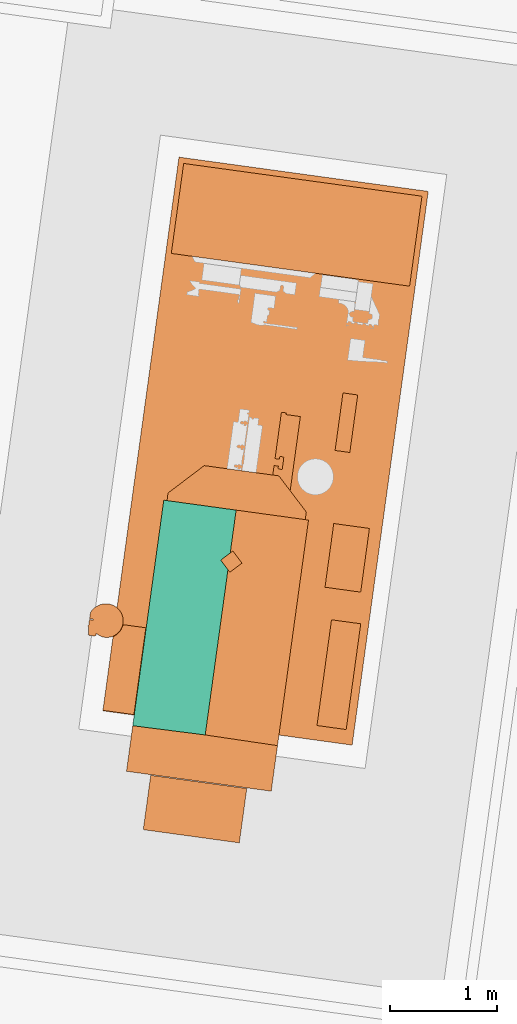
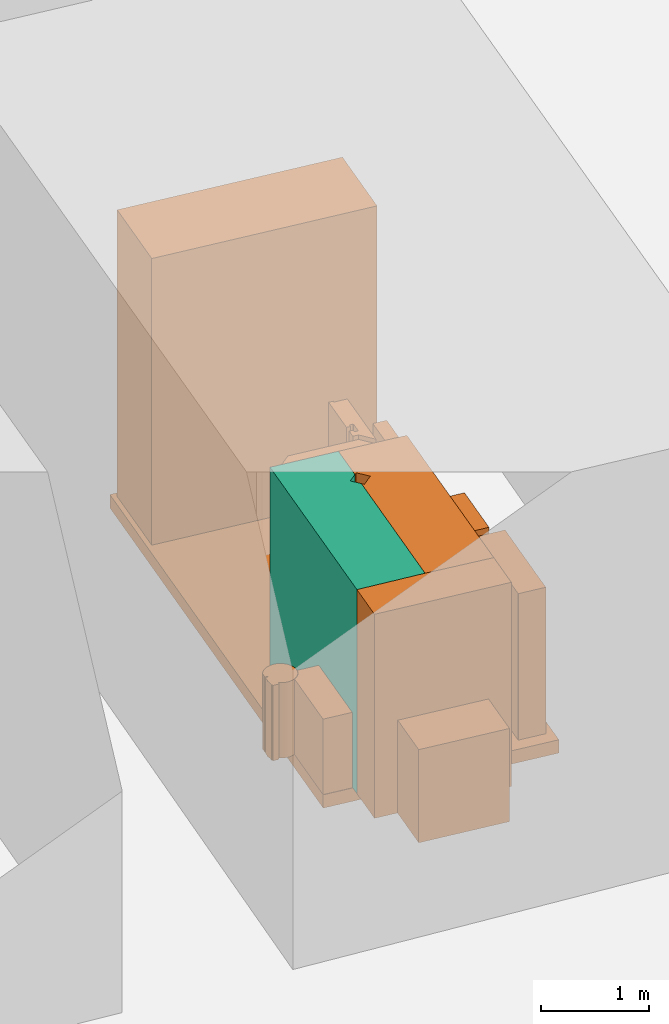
# Not in any storey, part 54 of 75: 12 proxies, 1 compressor.
"""IFC4 model written with IfcOpenShell, lengths in metres."""

from ifc_helpers import new_model, si_unit, direction, origin_with_axes, place, context, subcontext, project, spatial, triangles, element, aggregate, save


model = new_model("IFC4")

# Units and contexts
model_context = context("Model", 3, precision=1e-05, world=origin_with_axes(), true_north=direction((0.0, 1.0)))
body_context = subcontext(model_context, "Body", "Model", "MODEL_VIEW")
ifc_project = project(units=[si_unit("AREAUNIT", "SQUARE_METRE"), si_unit("VOLUMEUNIT", "CUBIC_METRE"), si_unit("LENGTHUNIT", "METRE")], contexts=[model_context])

# Site
site_placement = place(None, origin_with_axes())
site = spatial("IfcSite", under=ifc_project, at=site_placement, Name="Parcela industrial Jinhong")

# Compressor, proxies
compressor_placement = place(site_placement, origin_with_axes())
compressor = element("IfcCompressor", 1, at=compressor_placement, inside=site, Name="Compresor de aire AC1001C · Carcasa principal · región CAD 1", ObjectType="Envolvente de equipo", PredefinedType="USERDEFINED", context=body_context, shape_type="Tessellation", body=[
    triangles([(62.203534, 71.486232, 3.95), (61.527692, 71.57915, 3.95), (62.148549, 71.086294, 3.95), (61.527692, 71.57915, 1.65), (62.203534, 71.486232, 1.65), (62.148549, 71.086294, 1.65), (61.238041, 69.472368, 3.95), (61.914823, 69.386286, 3.95), (61.914823, 69.386286, 1.65), (61.238041, 69.472368, 1.65), (62.059412, 71.018705, 3.95), (62.127001, 70.929568, 3.95), (62.127001, 70.929568, 1.65), (62.059412, 71.018705, 1.65)], [[1, 2, 3], [4, 5, 6], [2, 7, 8], [9, 10, 4], [8, 12, 11], [13, 9, 14], [3, 2, 11], [4, 6, 14], [2, 8, 11], [14, 9, 4], [4, 10, 7], [4, 7, 2], [10, 9, 8], [10, 8, 7], [9, 13, 12], [9, 12, 8], [11, 13, 14], [11, 12, 13], [14, 6, 3], [14, 3, 11], [6, 5, 1], [1, 3, 6], [5, 4, 2], [5, 2, 1]], closed=True),
])
proxy_1_placement = place(compressor_placement, origin_with_axes())
proxy_1 = element("IfcBuildingElementProxy", 2, at=proxy_1_placement, Name="Compresor de aire AC1001C · Envolvente del bastidor de referencia", context=body_context, shape_type="Tessellation", body=[
    triangles([(61.669885, 74.78294, 1.65), (60.9589, 69.611587, 1.65), (63.287, 69.291507, 1.65), (61.669885, 74.78294, 1.5), (63.287, 69.291507, 1.5), (60.9589, 69.611587, 1.5), (63.997985, 74.462861, 1.65), (63.997985, 74.462861, 1.5)], [[1, 2, 3], [4, 5, 6], [3, 7, 1], [5, 4, 8], [7, 5, 8], [5, 7, 3], [8, 4, 1], [7, 8, 1], [2, 4, 6], [4, 2, 1], [6, 5, 3], [6, 3, 2]], closed=True),
])
proxy_2_placement = place(compressor_placement, origin_with_axes())
proxy_2 = element("IfcBuildingElementProxy", 3, at=proxy_2_placement, Name="Compresor de aire AC1001C · Carcasa principal · región CAD 2", context=body_context, shape_type="Tessellation", body=[
    triangles([(62.879476, 71.3933, 3.95), (62.203534, 71.486232, 3.95), (62.589825, 69.286518, 3.95), (62.203534, 71.486232, 1.65), (62.879476, 71.3933, 1.65), (62.589825, 69.286518, 1.65), (62.148549, 71.086294, 3.95), (62.172552, 71.104494, 3.95), (62.172552, 71.104494, 1.65), (62.148549, 71.086294, 1.65), (62.127001, 70.929568, 3.95), (61.914823, 69.386286, 3.95), (62.145202, 70.905566, 3.95), (62.127001, 70.929568, 1.65), (62.145202, 70.905566, 1.65), (61.914823, 69.386286, 1.65), (62.258341, 70.991355, 3.95), (62.258341, 70.991355, 1.65)], [[1, 2, 3], [4, 5, 6], [2, 7, 8], [9, 10, 4], [11, 12, 13], [14, 15, 16], [2, 8, 17], [18, 9, 4], [12, 17, 13], [16, 15, 18], [17, 3, 2], [18, 4, 6], [17, 12, 3], [6, 16, 18], [4, 10, 7], [4, 7, 2], [10, 9, 8], [10, 8, 7], [9, 18, 17], [9, 17, 8], [18, 15, 13], [18, 13, 17], [15, 14, 11], [11, 13, 15], [12, 14, 16], [14, 12, 11], [16, 6, 3], [16, 3, 12], [6, 5, 1], [1, 3, 6], [5, 4, 2], [5, 2, 1]], closed=True),
])
proxy_3_placement = place(compressor_placement, origin_with_axes())
proxy_3 = element("IfcBuildingElementProxy", 4, at=proxy_3_placement, Name="Compresor de aire AC1001C · Cuerpo de equipo · región CAD 3", context=body_context, shape_type="Tessellation", body=[
    triangles([(63.821909, 73.577895, 4.88), (61.599836, 73.884306, 4.88), (61.599713, 73.883414, 4.88), (61.599836, 73.884306, 1.65), (63.821909, 73.577895, 1.65), (61.599713, 73.883414, 1.65), (63.938989, 74.416261, 4.88), (63.821372, 73.580594, 4.88), (63.823938, 73.579433, 4.88), (63.938989, 74.416261, 1.65), (63.823938, 73.579433, 1.65), (63.821372, 73.580594, 1.65), (63.937437, 74.418191, 4.88), (61.715241, 74.72371, 4.88), (63.936437, 74.417521, 4.88), (61.715241, 74.72371, 1.65), (63.937437, 74.418191, 1.65), (63.936437, 74.417521, 1.65), (61.713448, 74.723149, 4.88), (61.598274, 73.885429, 4.88), (61.714887, 74.721134, 4.88), (61.713448, 74.723149, 1.65), (61.714887, 74.721134, 1.65), (61.598274, 73.885429, 1.65), (61.60185, 73.885745, 4.88), (61.60185, 73.885745, 1.65), (63.936192, 74.415738, 4.88), (63.936192, 74.415738, 1.65), (61.71667, 74.720889, 4.88), (61.71667, 74.720889, 1.65)], [[1, 2, 3], [4, 5, 6], [7, 8, 9], [10, 11, 12], [13, 14, 15], [16, 17, 18], [19, 20, 21], [22, 23, 24], [1, 25, 2], [4, 26, 5], [8, 7, 27], [12, 28, 10], [15, 14, 27], [16, 18, 28], [20, 29, 21], [24, 23, 30], [8, 25, 1], [5, 26, 12], [8, 27, 14], [16, 28, 12], [29, 20, 25], [26, 24, 30], [8, 14, 29], [30, 16, 12], [25, 8, 29], [26, 30, 12], [5, 12, 8], [5, 8, 1], [12, 11, 9], [12, 9, 8], [11, 10, 7], [7, 9, 11], [27, 10, 28], [27, 7, 10], [28, 18, 15], [28, 15, 27], [18, 17, 13], [13, 15, 18], [17, 16, 14], [17, 14, 13], [16, 30, 29], [16, 29, 14], [30, 23, 21], [30, 21, 29], [23, 22, 19], [19, 21, 23], [20, 22, 24], [22, 20, 19], [25, 24, 26], [25, 20, 24], [26, 4, 2], [26, 2, 25], [3, 4, 6], [4, 3, 2], [6, 5, 1], [1, 3, 6]], closed=True),
])
proxy_4_placement = place(compressor_placement, origin_with_axes())
proxy_4 = element("IfcBuildingElementProxy", 5, at=proxy_4_placement, Name="Compresor de aire AC1001C · Carcasa principal · región CAD 4", context=body_context, shape_type="Tessellation", body=[
    triangles([(62.589825, 69.286518, 3.95), (61.179555, 69.04697, 3.95), (62.531339, 68.86112, 3.95), (61.179555, 69.04697, 1.65), (62.589825, 69.286518, 1.65), (62.531339, 68.86112, 1.65), (61.238041, 69.472368, 3.95), (61.914823, 69.386286, 3.95), (61.914823, 69.386286, 1.65), (61.238041, 69.472368, 1.65)], [[1, 2, 3], [4, 5, 6], [8, 7, 1], [9, 5, 10], [2, 1, 7], [10, 5, 4], [8, 5, 9], [8, 1, 5], [7, 9, 10], [7, 8, 9], [10, 4, 2], [10, 2, 7], [3, 4, 6], [4, 3, 2], [6, 5, 1], [1, 3, 6]], closed=True),
])
proxy_5_placement = place(compressor_placement, origin_with_axes())
proxy_5 = element("IfcBuildingElementProxy", 6, at=proxy_5_placement, Name="Compresor de aire AC1001C · Cuerpo de equipo · región CAD 5", context=body_context, shape_type="Tessellation", body=[
    triangles([(62.84926, 71.397454, 3.75), (61.56752, 71.645645, 3.75), (61.557809, 71.575009, 3.75), (61.56752, 71.645645, 1.65), (62.84926, 71.397454, 1.65), (61.557809, 71.575009, 1.65), (62.602799, 71.80593, 3.75), (62.858972, 71.46809, 3.75), (62.858972, 71.46809, 1.65), (62.602799, 71.80593, 1.65), (61.90536, 71.901817, 3.75), (61.90536, 71.901817, 1.65)], [[1, 2, 3], [4, 5, 6], [1, 8, 7], [9, 5, 10], [7, 11, 2], [4, 12, 10], [7, 2, 1], [5, 4, 10], [5, 9, 8], [5, 8, 1], [7, 9, 10], [7, 8, 9], [11, 10, 12], [11, 7, 10], [12, 4, 2], [12, 2, 11], [3, 4, 6], [4, 3, 2], [6, 5, 1], [1, 3, 6]], closed=True),
])
proxy_6_placement = place(compressor_placement, origin_with_axes())
proxy_6 = element("IfcBuildingElementProxy", 7, at=proxy_6_placement, Name="Compresor de aire AC1001C · Cuerpo de equipo · región CAD 6", context=body_context, shape_type="Tessellation", body=[
    triangles([(62.303147, 68.886335, 2.7), (61.405986, 69.009682, 2.7), (61.336154, 68.501759, 2.7), (61.405986, 69.009682, 1.65), (62.303147, 68.886335, 1.65), (61.336154, 68.501759, 1.65), (62.233315, 68.378413, 2.7), (62.233315, 68.378413, 1.65)], [[1, 2, 3], [4, 5, 6], [7, 1, 3], [6, 5, 8], [7, 6, 8], [7, 3, 6], [8, 5, 1], [8, 1, 7], [5, 4, 2], [5, 2, 1], [3, 4, 6], [4, 3, 2]], closed=True),
])
proxy_7_placement = place(compressor_placement, origin_with_axes())
proxy_7 = element("IfcBuildingElementProxy", 8, at=proxy_7_placement, Name="Compresor de aire AC1001C · Cuerpo de equipo · región CAD 7", context=body_context, shape_type="Tessellation", body=[
    triangles([(63.231698, 69.437701, 3.3), (62.959436, 69.474225, 3.3), (63.230684, 69.436932, 3.3), (62.959436, 69.474225, 1.65), (63.231698, 69.437701, 1.65), (63.230684, 69.436932, 1.65), (63.367112, 70.422636, 3.3), (63.36389, 70.424896, 3.3), (63.36389, 70.424896, 1.65), (63.367112, 70.422636, 1.65), (63.097, 70.461589, 3.3), (63.09418, 70.46016, 3.3), (63.09418, 70.46016, 1.65), (63.097, 70.461589, 1.65), (62.958766, 69.475225, 3.3), (62.958766, 69.475225, 1.65)], [[1, 2, 3], [4, 5, 6], [1, 7, 8], [9, 10, 5], [8, 11, 12], [13, 14, 9], [15, 2, 12], [4, 16, 13], [8, 2, 1], [5, 4, 9], [8, 12, 2], [4, 13, 9], [5, 10, 7], [5, 7, 1], [10, 9, 8], [10, 8, 7], [11, 9, 14], [11, 8, 9], [14, 13, 12], [14, 12, 11], [13, 16, 15], [13, 15, 12], [16, 4, 2], [16, 2, 15], [3, 4, 6], [4, 3, 2], [6, 5, 1], [1, 3, 6]], closed=True),
])
proxy_8_placement = place(compressor_placement, origin_with_axes())
proxy_8 = element("IfcBuildingElementProxy", 9, at=proxy_8_placement, Name="Compresor de aire AC1001C · Cuerpo de equipo · región CAD 8", context=body_context, shape_type="Tessellation", body=[
    triangles([(61.360276, 70.387144, 2.5), (60.959487, 69.615845, 2.5), (61.248766, 69.576074, 2.5), (61.360276, 70.387144, 1.65), (61.248766, 69.576074, 1.65), (60.959487, 69.615845, 1.65), (61.149653, 70.424884, 2.5), (61.145844, 70.40966, 2.5), (61.148468, 70.416265, 2.5), (61.145844, 70.40966, 1.65), (61.149653, 70.424884, 1.65), (61.148468, 70.416265, 1.65), (61.059818, 70.307425, 2.5), (61.05431, 70.305539, 2.5), (61.05431, 70.305539, 1.65), (61.059818, 70.307425, 1.65), (61.141253, 70.395353, 2.5), (61.141253, 70.395353, 1.65), (61.073089, 70.314382, 2.5), (61.073089, 70.314382, 1.65), (61.0857, 70.323146, 2.5), (61.0857, 70.323146, 1.65), (61.127711, 70.367336, 2.5), (61.127711, 70.367336, 1.65), (61.09742, 70.332033, 2.5), (61.09742, 70.332033, 1.65), (61.118982, 70.354505, 2.5), (61.118982, 70.354505, 1.65), (61.108592, 70.342811, 2.5), (61.108592, 70.342811, 1.65)], [[1, 2, 3], [4, 5, 6], [7, 8, 9], [10, 11, 12], [13, 14, 2], [6, 15, 16], [2, 1, 9], [6, 12, 4], [17, 9, 8], [12, 18, 10], [19, 13, 2], [6, 16, 20], [2, 9, 17], [18, 12, 6], [21, 19, 2], [6, 20, 22], [2, 17, 23], [24, 18, 6], [25, 21, 2], [6, 22, 26], [2, 23, 27], [28, 24, 6], [25, 2, 29], [26, 30, 6], [2, 27, 29], [30, 28, 6], [9, 4, 12], [9, 1, 4], [12, 11, 7], [7, 9, 12], [11, 10, 8], [11, 8, 7], [10, 18, 17], [10, 17, 8], [18, 24, 23], [18, 23, 17], [24, 28, 27], [24, 27, 23], [28, 30, 29], [28, 29, 27], [30, 26, 25], [30, 25, 29], [26, 22, 21], [26, 21, 25], [22, 20, 19], [22, 19, 21], [20, 16, 13], [20, 13, 19], [16, 15, 14], [16, 14, 13], [15, 6, 2], [15, 2, 14], [6, 5, 3], [6, 3, 2], [5, 4, 1], [1, 3, 5]], closed=True),
])
proxy_9_placement = place(compressor_placement, origin_with_axes())
proxy_9 = element("IfcBuildingElementProxy", 10, at=proxy_9_placement, Name="Compresor de aire AC1001C · Cuerpo de equipo · región CAD 9", context=body_context, shape_type="Tessellation", body=[
    triangles([(63.448523, 71.315064, 3.15), (63.115357, 71.36087, 3.15), (63.366733, 70.72016, 3.15), (63.115357, 71.36087, 1.65), (63.448523, 71.315064, 1.65), (63.366733, 70.72016, 1.65), (63.033567, 70.765966, 3.15), (63.033567, 70.765966, 1.65)], [[1, 2, 3], [4, 5, 6], [2, 7, 3], [6, 8, 4], [4, 8, 7], [4, 7, 2], [8, 6, 3], [8, 3, 7], [6, 5, 1], [1, 3, 6], [5, 4, 2], [5, 2, 1]], closed=True),
])
proxy_10_placement = place(compressor_placement, origin_with_axes())
proxy_10 = element("IfcBuildingElementProxy", 11, at=proxy_10_placement, Name="Compresor de aire AC1001C · Cuerpo de equipo · región CAD 11", context=body_context, shape_type="Tessellation", body=[
    triangles([(62.67293, 72.393286, 3.8), (62.67221, 72.393754, 3.8), (62.62654, 72.400033, 3.8), (62.62654, 72.400033, 1.65), (62.67221, 72.393754, 1.65), (62.67293, 72.393286, 1.65), (62.567005, 71.967006, 3.8), (62.606632, 71.961558, 3.8), (62.606632, 71.961558, 1.65), (62.567005, 71.967006, 1.65), (62.597752, 71.896965, 3.8), (62.558125, 71.902414, 3.8), (62.595028, 71.877152, 3.8), (62.558125, 71.902414, 1.65), (62.597752, 71.896965, 1.65), (62.595028, 71.877152, 1.65), (62.545934, 71.813748, 3.8), (62.602799, 71.80593, 3.8), (62.602799, 71.80593, 1.65), (62.545934, 71.813748, 1.65), (62.80353, 72.359952, 3.8), (62.67702, 72.377346, 3.8), (62.708242, 71.666872, 3.8), (62.67702, 72.377346, 1.65), (62.80353, 72.359952, 1.65), (62.708242, 71.666872, 1.65), (62.677143, 72.378237, 3.8), (62.665056, 72.379899, 3.8), (62.665056, 72.379899, 1.65), (62.677143, 72.378237, 1.65), (62.666972, 72.381351, 3.8), (62.666972, 72.381351, 1.65), (62.609356, 71.981371, 3.8), (62.609356, 71.981371, 1.65), (62.60024, 71.870278, 3.8), (62.60024, 71.870278, 1.65), (62.61623, 71.986584, 3.8), (62.61623, 71.986584, 1.65), (62.644663, 71.982675, 3.8), (62.644663, 71.982675, 1.65), (62.628673, 71.866369, 3.8), (62.628673, 71.866369, 1.65), (62.648984, 71.975923, 3.8), (62.648984, 71.975923, 1.65), (62.634655, 71.871704, 3.8), (62.634655, 71.871704, 1.65)], [[1, 2, 3], [4, 5, 6], [3, 7, 8], [9, 10, 4], [11, 12, 13], [14, 15, 16], [12, 17, 18], [19, 20, 14], [21, 22, 23], [24, 25, 26], [22, 27, 28], [29, 30, 24], [28, 31, 1], [6, 32, 29], [3, 8, 33], [34, 9, 4], [13, 12, 35], [16, 36, 14], [18, 23, 12], [19, 14, 26], [23, 22, 28], [26, 29, 24], [28, 1, 3], [4, 6, 29], [3, 33, 37], [38, 34, 4], [35, 12, 23], [26, 14, 36], [23, 28, 3], [26, 4, 29], [3, 37, 39], [40, 38, 4], [41, 35, 23], [26, 36, 42], [39, 43, 3], [40, 4, 44], [45, 41, 23], [26, 42, 46], [23, 3, 43], [44, 4, 26], [45, 23, 43], [44, 26, 46], [4, 10, 7], [4, 7, 3], [10, 9, 8], [10, 8, 7], [9, 34, 33], [9, 33, 8], [37, 34, 38], [37, 33, 34], [39, 38, 40], [39, 37, 38], [40, 44, 43], [40, 43, 39], [44, 46, 45], [44, 45, 43], [46, 42, 41], [46, 41, 45], [42, 36, 35], [42, 35, 41], [36, 16, 13], [36, 13, 35], [16, 15, 11], [11, 13, 16], [15, 14, 12], [15, 12, 11], [14, 20, 17], [14, 17, 12], [20, 19, 18], [20, 18, 17], [19, 26, 23], [19, 23, 18], [26, 25, 21], [21, 23, 26], [25, 24, 22], [25, 22, 21], [24, 30, 27], [24, 27, 22], [30, 29, 28], [30, 28, 27], [31, 29, 32], [31, 28, 29], [32, 6, 1], [32, 1, 31], [6, 5, 2], [6, 2, 1], [5, 4, 3], [5, 3, 2]], closed=True),
])
proxy_11_placement = place(compressor_placement, origin_with_axes())
proxy_11 = element("IfcBuildingElementProxy", 12, at=proxy_11_placement, Name="Compresor de aire AC1001C · Cuerpo de equipo · región CAD 12", context=body_context, shape_type="Tessellation", body=[
    triangles([(63.339211, 72.561771, 3.25), (63.127643, 72.043457, 3.25), (63.265347, 72.024525, 3.25), (63.339211, 72.561771, 1.65), (63.265347, 72.024525, 1.65), (63.127643, 72.043457, 1.65), (63.201506, 72.580704, 3.25), (63.201506, 72.580704, 1.65)], [[1, 2, 3], [4, 5, 6], [2, 1, 7], [6, 8, 4], [7, 4, 8], [7, 1, 4], [8, 6, 2], [8, 2, 7], [6, 5, 3], [6, 3, 2], [5, 4, 1], [1, 3, 5]], closed=True),
])
proxy_12_placement = place(compressor_placement, origin_with_axes())
proxy_12 = element("IfcBuildingElementProxy", 13, at=proxy_12_placement, Name="Compresor de aire AC1001C · Cuerpo de equipo · región CAD 13", context=body_context, shape_type="Tessellation", body=[
    triangles([(60.896965, 70.335064, 2.5), (60.885622, 70.316435, 2.5), (60.894241, 70.31525, 2.5), (60.896965, 70.335064, 1.65), (60.894241, 70.31525, 1.65), (60.885622, 70.316435, 1.65), (60.931524, 70.31184, 2.5), (60.913579, 70.322282, 2.5), (60.913579, 70.322282, 1.65), (60.931524, 70.31184, 1.65), (60.971895, 70.299325, 2.5), (60.950629, 70.303965, 2.5), (60.950629, 70.303965, 1.65), (60.971895, 70.299325, 1.65), (61.000559, 70.2971, 2.5), (60.986557, 70.297309, 2.5), (60.986557, 70.297309, 1.65), (61.000559, 70.2971, 1.65), (61.029969, 70.301031, 2.5), (61.015599, 70.298565, 2.5), (61.015599, 70.298565, 1.65), (61.029969, 70.301031, 1.65), (61.057596, 70.310355, 2.5), (61.044556, 70.305082, 2.5), (61.044556, 70.305082, 1.65), (61.057596, 70.310355, 1.65), (61.083356, 70.325184, 2.5), (61.070867, 70.317312, 2.5), (61.070867, 70.317312, 1.65), (61.083356, 70.325184, 1.65), (61.116651, 70.356643, 2.5), (61.106248, 70.34485, 2.5), (61.106248, 70.34485, 1.65), (61.116651, 70.356643, 1.65), (61.132302, 70.381644, 2.5), (61.125257, 70.368582, 2.5), (61.125257, 70.368582, 1.65), (61.132302, 70.381644, 1.65), (61.143269, 70.410015, 2.5), (61.138677, 70.395707, 2.5), (61.138677, 70.395707, 1.65), (61.143269, 70.410015, 1.65), (61.148642, 70.455709, 2.5), (61.148324, 70.440914, 2.5), (61.148324, 70.440914, 1.65), (61.148642, 70.455709, 1.65), (61.144947, 70.486095, 2.5), (61.147191, 70.470847, 2.5), (61.147191, 70.470847, 1.65), (61.144947, 70.486095, 1.65), (61.135085, 70.516421, 2.5), (61.140919, 70.501588, 2.5), (61.140919, 70.501588, 1.65), (61.135085, 70.516421, 1.65), (61.119473, 70.543096, 2.5), (61.128114, 70.529593, 2.5), (61.128114, 70.529593, 1.65), (61.119473, 70.543096, 1.65), (61.08644, 70.577415, 2.5), (61.109817, 70.55583, 2.5), (61.109817, 70.55583, 1.65), (61.08644, 70.577415, 1.65), (61.059791, 70.594302, 2.5), (61.073623, 70.586243, 2.5), (61.073623, 70.586243, 1.65), (61.059791, 70.594302, 1.65), (61.029723, 70.605401, 2.5), (61.044922, 70.600687, 2.5), (61.044922, 70.600687, 1.65), (61.029723, 70.605401, 1.65), (60.998045, 70.610665, 2.5), (61.014513, 70.609309, 2.5), (61.014513, 70.609309, 1.65), (60.998045, 70.610665, 1.65), (60.982259, 70.611119, 2.5), (60.965436, 70.609899, 2.5), (60.965436, 70.609899, 1.65), (60.982259, 70.611119, 1.65), (60.918948, 70.597011, 2.5), (60.933781, 70.602845, 2.5), (60.933781, 70.602845, 1.65), (60.918948, 70.597011, 1.65), (60.890367, 70.580752, 2.5), (60.904761, 70.589271, 2.5), (60.904761, 70.589271, 1.65), (60.890367, 70.580752, 1.65), (60.863398, 70.556398, 2.5), (60.876595, 70.569422, 2.5), (60.876595, 70.569422, 1.65), (60.863398, 70.556398, 1.65), (60.841775, 70.526868, 2.5), (60.851872, 70.543044, 2.5), (60.851872, 70.543044, 1.65), (60.841775, 70.526868, 1.65), (60.835349, 70.474253, 2.5), (60.839135, 70.501794, 2.5), (60.834788, 70.476046, 2.5), (60.839135, 70.501794, 1.65), (60.835349, 70.474253, 1.65), (60.834788, 70.476046, 1.65), (60.864319, 70.467646, 2.5), (60.837901, 70.472994, 2.5), (60.837901, 70.472994, 1.65), (60.864319, 70.467646, 1.65), (60.862474, 70.460834, 2.5), (60.836484, 70.462691, 2.5), (60.833687, 70.462167, 2.5), (60.833687, 70.462167, 1.65), (60.836484, 70.462691, 1.65), (60.862474, 70.460834, 1.65), (60.826591, 70.410552, 2.5), (60.83254, 70.4597, 2.5), (60.83254, 70.4597, 1.65), (60.826591, 70.410552, 1.65), (60.825553, 70.408878, 2.5), (60.820401, 70.409586, 2.5), (60.825588, 70.383436, 2.5), (60.820401, 70.409586, 1.65), (60.825553, 70.408878, 1.65), (60.825588, 70.383436, 1.65), (60.826661, 70.359669, 2.5), (60.821921, 70.325193, 2.5), (60.831431, 70.323885, 2.5), (60.826661, 70.359669, 1.65), (60.831431, 70.323885, 1.65), (60.821921, 70.325193, 1.65), (60.884682, 70.309599, 2.5), (60.830492, 70.31705, 2.5), (60.830492, 70.31705, 1.65), (60.884682, 70.309599, 1.65), (60.826516, 70.371095, 2.5), (60.826516, 70.371095, 1.65), (60.842445, 70.525868, 2.5), (60.842445, 70.525868, 1.65), (60.871447, 70.462224, 2.5), (60.871447, 70.462224, 1.65), (60.8708, 70.46413, 2.5), (60.8708, 70.46413, 1.65)], [[1, 2, 3], [4, 5, 6], [8, 7, 1], [9, 4, 10], [12, 11, 7], [13, 10, 14], [16, 15, 11], [17, 14, 18], [20, 19, 15], [21, 18, 22], [24, 23, 19], [25, 22, 26], [28, 27, 23], [29, 26, 30], [32, 31, 27], [33, 30, 34], [36, 35, 31], [37, 34, 38], [40, 39, 35], [41, 38, 42], [44, 43, 39], [45, 42, 46], [48, 47, 43], [49, 46, 50], [52, 51, 47], [53, 50, 54], [56, 55, 51], [57, 54, 58], [60, 59, 55], [61, 58, 62], [64, 63, 59], [65, 62, 66], [68, 67, 63], [69, 66, 70], [72, 71, 67], [73, 70, 74], [71, 75, 76], [77, 78, 74], [80, 79, 76], [81, 77, 82], [84, 83, 79], [85, 82, 86], [88, 87, 83], [89, 86, 90], [92, 91, 87], [93, 90, 94], [95, 96, 97], [98, 99, 100], [102, 101, 95], [103, 99, 104], [105, 106, 107], [108, 109, 110], [112, 111, 107], [113, 108, 114], [115, 116, 117], [118, 119, 120], [121, 122, 123], [124, 125, 126], [128, 127, 123], [129, 125, 130], [7, 11, 1], [10, 4, 14], [15, 19, 11], [18, 14, 22], [23, 27, 19], [26, 22, 30], [31, 35, 27], [34, 30, 38], [39, 43, 35], [42, 38, 46], [47, 51, 43], [50, 46, 54], [55, 59, 51], [58, 54, 62], [63, 67, 59], [66, 62, 70], [67, 71, 76], [77, 74, 70], [79, 83, 76], [82, 77, 86], [87, 91, 83], [90, 86, 94], [95, 101, 96], [98, 104, 99], [105, 107, 111], [114, 108, 110], [115, 117, 111], [119, 114, 120], [123, 131, 121], [132, 125, 124], [127, 2, 123], [125, 6, 130], [11, 19, 1], [14, 4, 22], [27, 35, 19], [30, 22, 38], [43, 51, 35], [46, 38, 54], [59, 67, 51], [62, 54, 70], [67, 76, 83], [86, 77, 70], [83, 91, 133], [134, 94, 86], [133, 96, 101], [104, 98, 134], [111, 135, 105], [114, 110, 136], [117, 131, 111], [120, 114, 132], [123, 2, 131], [125, 132, 6], [19, 35, 1], [22, 4, 38], [35, 51, 67], [70, 54, 38], [67, 83, 133], [134, 86, 70], [101, 137, 133], [138, 104, 134], [135, 111, 131], [132, 114, 136], [2, 1, 131], [6, 132, 4], [1, 35, 67], [70, 38, 4], [67, 133, 137], [138, 134, 70], [135, 131, 1], [4, 132, 136], [135, 67, 137], [136, 138, 70], [67, 135, 1], [4, 136, 70], [5, 4, 1], [1, 3, 5], [8, 4, 9], [8, 1, 4], [7, 9, 10], [7, 8, 9], [12, 10, 13], [12, 7, 10], [11, 13, 14], [11, 12, 13], [16, 14, 17], [16, 11, 14], [15, 17, 18], [15, 16, 17], [20, 18, 21], [20, 15, 18], [19, 21, 22], [19, 20, 21], [24, 22, 25], [24, 19, 22], [23, 25, 26], [23, 24, 25], [28, 26, 29], [28, 23, 26], [27, 29, 30], [27, 28, 29], [32, 30, 33], [32, 27, 30], [31, 33, 34], [31, 32, 33], [34, 37, 36], [34, 36, 31], [35, 37, 38], [35, 36, 37], [38, 41, 40], [38, 40, 35], [39, 41, 42], [39, 40, 41], [42, 45, 44], [42, 44, 39], [43, 45, 46], [43, 44, 45], [46, 49, 48], [46, 48, 43], [47, 49, 50], [47, 48, 49], [50, 53, 52], [50, 52, 47], [51, 53, 54], [51, 52, 53], [54, 57, 56], [54, 56, 51], [55, 57, 58], [55, 56, 57], [58, 61, 60], [58, 60, 55], [59, 61, 62], [59, 60, 61], [64, 62, 65], [64, 59, 62], [63, 65, 66], [63, 64, 65], [68, 66, 69], [68, 63, 66], [67, 69, 70], [67, 68, 69], [72, 70, 73], [72, 67, 70], [71, 73, 74], [71, 72, 73], [75, 74, 78], [75, 71, 74], [78, 77, 76], [78, 76, 75], [80, 77, 81], [80, 76, 77], [79, 81, 82], [79, 80, 81], [84, 82, 85], [84, 79, 82], [83, 85, 86], [83, 84, 85], [88, 86, 89], [88, 83, 86], [87, 89, 90], [87, 88, 89], [90, 93, 92], [90, 92, 87], [91, 93, 94], [91, 92, 93], [94, 134, 133], [94, 133, 91], [134, 98, 96], [134, 96, 133], [97, 98, 100], [98, 97, 96], [100, 99, 95], [95, 97, 100], [102, 99, 103], [102, 95, 99], [101, 103, 104], [101, 102, 103], [137, 104, 138], [137, 101, 104], [138, 136, 135], [138, 135, 137], [136, 110, 105], [136, 105, 135], [110, 109, 106], [110, 106, 105], [109, 108, 107], [109, 107, 106], [108, 113, 112], [108, 112, 107], [111, 113, 114], [111, 112, 113], [114, 119, 115], [114, 115, 111], [119, 118, 116], [119, 116, 115], [117, 118, 120], [118, 117, 116], [120, 132, 131], [120, 131, 117], [132, 124, 121], [132, 121, 131], [122, 124, 126], [124, 122, 121], [126, 125, 123], [126, 123, 122], [125, 129, 128], [125, 128, 123], [127, 129, 130], [127, 128, 129], [130, 6, 2], [130, 2, 127], [6, 5, 3], [6, 3, 2]], closed=True),
])
aggregate(compressor, [proxy_1, proxy_2, proxy_3, proxy_4, proxy_5, proxy_6, proxy_7, proxy_8, proxy_9, proxy_10, proxy_11, proxy_12])

save(model, "model.ifc")
